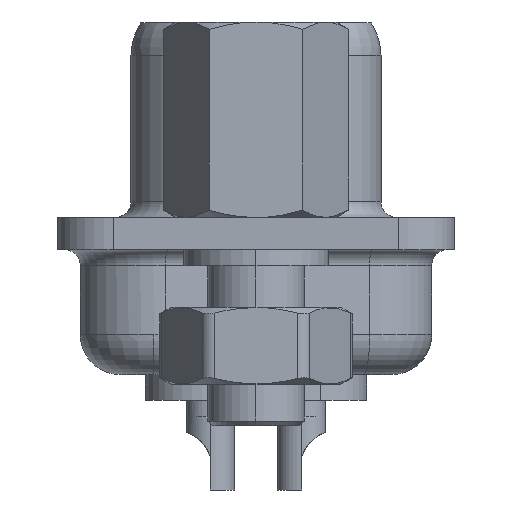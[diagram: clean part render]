
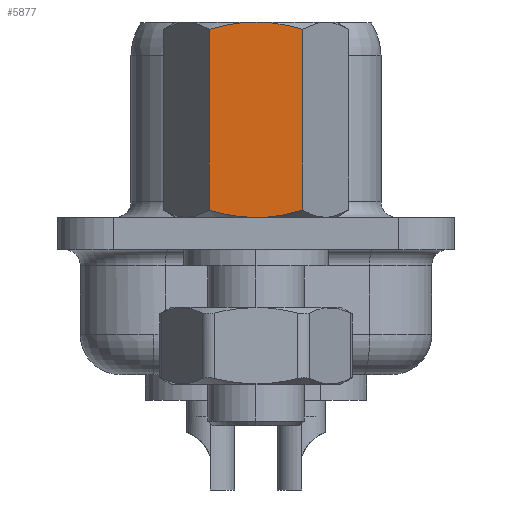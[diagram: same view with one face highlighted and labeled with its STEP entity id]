
A CAD part, left-side view. The second image highlights one B-rep face of the part: STEP entity #5877.
In plain terms, the highlighted planar face has unit normal (-1, 0, 0).
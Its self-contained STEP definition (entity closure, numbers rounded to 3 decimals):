
#65 = VERTEX_POINT ( 'NONE', #119 ) ;
#119 = CARTESIAN_POINT ( 'NONE',  ( -34.25, 1.457, 0.727 ) ) ;
#1296 = CARTESIAN_POINT ( 'NONE',  ( -34.25, 0., 0.5 ) ) ;
#1420 = CARTESIAN_POINT ( 'NONE',  ( -34.25, -1.457, 0.727 ) ) ;
#1527 = EDGE_CURVE ( 'NONE', #12190, #65, #10005, .T. ) ;
#2802 = LINE ( 'NONE', #7293, #3355 ) ;
#2990 = CARTESIAN_POINT ( 'NONE',  ( -34.25, 0.983, 0.602 ) ) ;
#3068 = CARTESIAN_POINT ( 'NONE',  ( -34.25, 0., 0.5 ) ) ;
#3090 = CARTESIAN_POINT ( 'NONE',  ( -34.25, -0.977, 0.6 ) ) ;
#3355 = VECTOR ( 'NONE', #23224, 1000. ) ;
#3806 = ORIENTED_EDGE ( 'NONE', *, *, #22237, .F. ) ;
#4203 = CARTESIAN_POINT ( 'NONE',  ( -34.25, 1.457, 6.373 ) ) ;
#4702 = CARTESIAN_POINT ( 'NONE',  ( -34.25, 0.496, 0.522 ) ) ;
#4736 = CARTESIAN_POINT ( 'NONE',  ( -34.25, 0., 6.6 ) ) ;
#5026 = VERTEX_POINT ( 'NONE', #14434 ) ;
#5877 = ADVANCED_FACE ( 'NONE', ( #19491 ), #14117, .F. ) ;
#5996 = CARTESIAN_POINT ( 'NONE',  ( -34.25, 1.221, 6.441 ) ) ;
#6501 = EDGE_CURVE ( 'NONE', #17697, #5026, #12875, .T. ) ;
#6985 = VECTOR ( 'NONE', #15493, 1000. ) ;
#7237 = EDGE_CURVE ( 'NONE', #8488, #17697, #14656, .T. ) ;
#7293 = CARTESIAN_POINT ( 'NONE',  ( -34.25, 1.457, 6.6 ) ) ;
#7772 = CARTESIAN_POINT ( 'NONE',  ( -34.25, -0.246, 6.6 ) ) ;
#8118 = VERTEX_POINT ( 'NONE', #15302 ) ;
#8488 = VERTEX_POINT ( 'NONE', #15129 ) ;
#8742 = CARTESIAN_POINT ( 'NONE',  ( -34.25, 1.457, 6.6 ) ) ;
#10005 = B_SPLINE_CURVE_WITH_KNOTS ( 'NONE', 3,
 ( #3068, #15425, #4702, #2990, #17696, #22677 ),
 .UNSPECIFIED., .F., .F.,
 ( 4, 2, 4 ),
 ( 0.004, 0.005, 0.006 ),
 .UNSPECIFIED. ) ;
#12011 = CARTESIAN_POINT ( 'NONE',  ( -34.25, 0., 0.5 ) ) ;
#12020 = ORIENTED_EDGE ( 'NONE', *, *, #16489, .T. ) ;
#12087 = CARTESIAN_POINT ( 'NONE',  ( -34.25, -0.491, 0.521 ) ) ;
#12190 = VERTEX_POINT ( 'NONE', #1296 ) ;
#12696 = ORIENTED_EDGE ( 'NONE', *, *, #6501, .F. ) ;
#12875 = B_SPLINE_CURVE_WITH_KNOTS ( 'NONE', 3,
 ( #14721, #7772, #13150, #18248, #20317, #16753 ),
 .UNSPECIFIED., .F., .F.,
 ( 4, 2, 4 ),
 ( 0.002, 0.003, 0.004 ),
 .UNSPECIFIED. ) ;
#13150 = CARTESIAN_POINT ( 'NONE',  ( -34.25, -0.491, 6.579 ) ) ;
#13538 = ORIENTED_EDGE ( 'NONE', *, *, #1527, .F. ) ;
#13644 = CARTESIAN_POINT ( 'NONE',  ( -34.25, 0.983, 6.498 ) ) ;
#13677 = CARTESIAN_POINT ( 'NONE',  ( -34.25, -1.457, 6.6 ) ) ;
#13761 = B_SPLINE_CURVE_WITH_KNOTS ( 'NONE', 3,
 ( #1420, #22700, #3090, #12087, #14020, #12011 ),
 .UNSPECIFIED., .F., .F.,
 ( 4, 2, 4 ),
 ( 0.003, 0.003, 0.004 ),
 .UNSPECIFIED. ) ;
#13809 = DIRECTION ( 'NONE',  ( 0., 0., -1. ) ) ;
#14020 = CARTESIAN_POINT ( 'NONE',  ( -34.25, -0.246, 0.5 ) ) ;
#14117 = PLANE ( 'NONE',  #21031 ) ;
#14434 = CARTESIAN_POINT ( 'NONE',  ( -34.25, -1.457, 6.373 ) ) ;
#14656 = B_SPLINE_CURVE_WITH_KNOTS ( 'NONE', 3,
 ( #4203, #5996, #13644, #15375, #16949, #4736 ),
 .UNSPECIFIED., .F., .F.,
 ( 4, 2, 4 ),
 ( 0.001, 0.002, 0.002 ),
 .UNSPECIFIED. ) ;
#14721 = CARTESIAN_POINT ( 'NONE',  ( -34.25, 0., 6.6 ) ) ;
#14984 = CARTESIAN_POINT ( 'NONE',  ( -34.25, 0., 6.6 ) ) ;
#15129 = CARTESIAN_POINT ( 'NONE',  ( -34.25, 1.457, 6.373 ) ) ;
#15302 = CARTESIAN_POINT ( 'NONE',  ( -34.25, -1.457, 0.727 ) ) ;
#15375 = CARTESIAN_POINT ( 'NONE',  ( -34.25, 0.496, 6.578 ) ) ;
#15425 = CARTESIAN_POINT ( 'NONE',  ( -34.25, 0.246, 0.5 ) ) ;
#15493 = DIRECTION ( 'NONE',  ( 0., 0., -1. ) ) ;
#15647 = EDGE_LOOP ( 'NONE', ( #3806, #20665, #12696, #17441, #12020, #13538 ) ) ;
#16489 = EDGE_CURVE ( 'NONE', #8488, #65, #2802, .T. ) ;
#16753 = CARTESIAN_POINT ( 'NONE',  ( -34.25, -1.457, 6.373 ) ) ;
#16949 = CARTESIAN_POINT ( 'NONE',  ( -34.25, 0.246, 6.6 ) ) ;
#17441 = ORIENTED_EDGE ( 'NONE', *, *, #7237, .F. ) ;
#17696 = CARTESIAN_POINT ( 'NONE',  ( -34.25, 1.221, 0.659 ) ) ;
#17697 = VERTEX_POINT ( 'NONE', #14984 ) ;
#18248 = CARTESIAN_POINT ( 'NONE',  ( -34.25, -0.977, 6.5 ) ) ;
#19491 = FACE_OUTER_BOUND ( 'NONE', #15647, .T. ) ;
#20317 = CARTESIAN_POINT ( 'NONE',  ( -34.25, -1.22, 6.442 ) ) ;
#20483 = LINE ( 'NONE', #13677, #6985 ) ;
#20665 = ORIENTED_EDGE ( 'NONE', *, *, #22747, .F. ) ;
#21031 = AXIS2_PLACEMENT_3D ( 'NONE', #8742, #23016, #13809 ) ;
#22237 = EDGE_CURVE ( 'NONE', #8118, #12190, #13761, .T. ) ;
#22677 = CARTESIAN_POINT ( 'NONE',  ( -34.25, 1.457, 0.727 ) ) ;
#22700 = CARTESIAN_POINT ( 'NONE',  ( -34.25, -1.22, 0.658 ) ) ;
#22747 = EDGE_CURVE ( 'NONE', #5026, #8118, #20483, .T. ) ;
#23016 = DIRECTION ( 'NONE',  ( 1., 0., 0. ) ) ;
#23224 = DIRECTION ( 'NONE',  ( 0., 0., -1. ) ) ;
